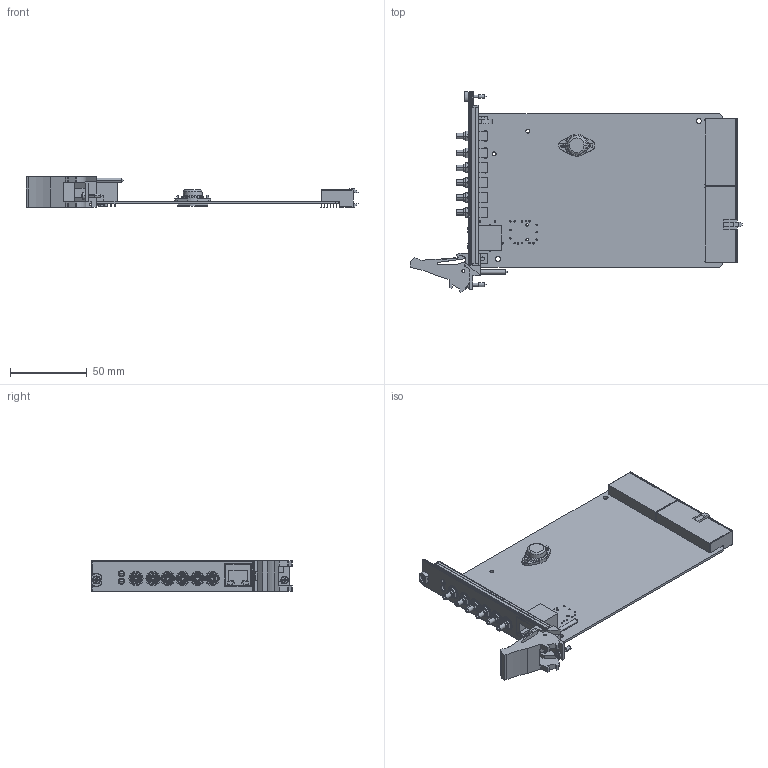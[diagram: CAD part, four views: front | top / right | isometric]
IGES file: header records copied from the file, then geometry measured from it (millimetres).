
Start section:  PTC IGES file: cu_cca_pxi-6683.igs
Global section: file name: cu_cca_pxi-6683.igs; native system: Pro/ENGINEER by Parametric Technology Corporation; preprocessor: 2011490; author: gvillanu; organization: Unknown; date: 20140114.104728; units: inch
Bounding box: 216.08 x 130.5 x 20.49 mm (x, y, z)
Surface area: 61565.5 mm2 (no closed solid volume)
Topology: 0 solids, 0 shells, 979 faces, 5290 edges, 5273 vertices
Faces by surface type: bspline 603, revolution 376
